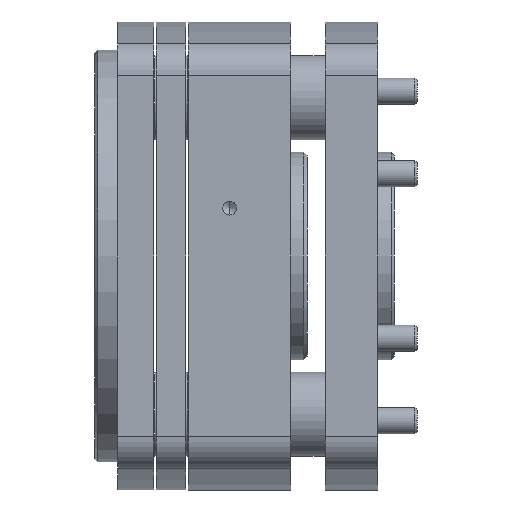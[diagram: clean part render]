
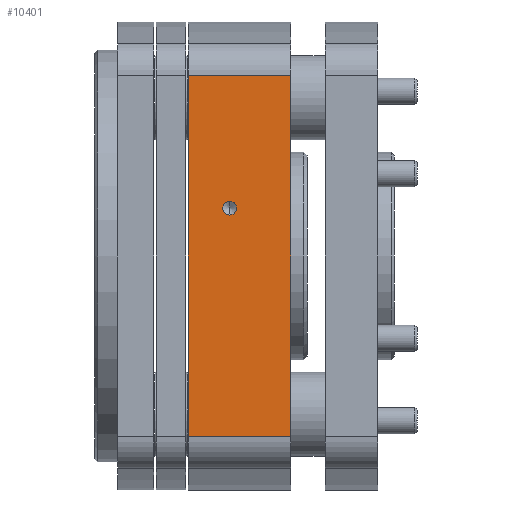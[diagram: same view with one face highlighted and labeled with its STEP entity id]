
A CAD part, left-side view. The second image highlights one B-rep face of the part: STEP entity #10401.
In plain terms, the highlighted planar face has unit normal (-1, 0, 0).
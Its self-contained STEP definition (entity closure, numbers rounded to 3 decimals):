
#1173 = DIRECTION ( 'NONE',  ( 0., 0., 1. ) ) ;
#2265 = CIRCLE ( 'NONE', #2999, 2.067 ) ;
#2429 = AXIS2_PLACEMENT_3D ( 'NONE', #11113, #3839, #13473 ) ;
#2808 = EDGE_CURVE ( 'NONE', #13962, #8221, #11132, .T. ) ;
#2934 = VECTOR ( 'NONE', #3507, 1000. ) ;
#2999 = AXIS2_PLACEMENT_3D ( 'NONE', #13264, #14474, #13314 ) ;
#3128 = ORIENTED_EDGE ( 'NONE', *, *, #13767, .F. ) ;
#3389 = LINE ( 'NONE', #14414, #3954 ) ;
#3403 = CARTESIAN_POINT ( 'NONE',  ( -62.5, -28., 54.762 ) ) ;
#3454 = CARTESIAN_POINT ( 'NONE',  ( -62.5, -59., -54.762 ) ) ;
#3507 = DIRECTION ( 'NONE',  ( 0., -1., 0. ) ) ;
#3578 = EDGE_CURVE ( 'NONE', #15499, #13962, #3389, .T. ) ;
#3839 = DIRECTION ( 'NONE',  ( -1., 0., 0. ) ) ;
#3884 = ORIENTED_EDGE ( 'NONE', *, *, #5105, .T. ) ;
#3954 = VECTOR ( 'NONE', #1173, 1000. ) ;
#4232 = CARTESIAN_POINT ( 'NONE',  ( -62.5, -28., 163.029 ) ) ;
#4485 = DIRECTION ( 'NONE',  ( 0., 0., -1. ) ) ;
#4801 = CARTESIAN_POINT ( 'NONE',  ( -62.5, -59., 54.762 ) ) ;
#4992 = PLANE ( 'NONE',  #2429 ) ;
#5105 = EDGE_CURVE ( 'NONE', #9518, #10868, #10880, .T. ) ;
#5796 = ORIENTED_EDGE ( 'NONE', *, *, #7923, .T. ) ;
#6500 = VECTOR ( 'NONE', #6709, 1000. ) ;
#6709 = DIRECTION ( 'NONE',  ( 0., 0., 1. ) ) ;
#6773 = ORIENTED_EDGE ( 'NONE', *, *, #10712, .T. ) ;
#7675 = EDGE_LOOP ( 'NONE', ( #3128, #6773, #8150, #8603 ) ) ;
#7923 = EDGE_CURVE ( 'NONE', #10868, #9518, #2265, .T. ) ;
#8150 = ORIENTED_EDGE ( 'NONE', *, *, #3578, .T. ) ;
#8221 = VERTEX_POINT ( 'NONE', #3403 ) ;
#8391 = VERTEX_POINT ( 'NONE', #13403 ) ;
#8603 = ORIENTED_EDGE ( 'NONE', *, *, #2808, .T. ) ;
#8851 = CARTESIAN_POINT ( 'NONE',  ( -62.5, -40.5, 16.567 ) ) ;
#8934 = EDGE_LOOP ( 'NONE', ( #5796, #3884 ) ) ;
#9518 = VERTEX_POINT ( 'NONE', #8851 ) ;
#10401 = ADVANCED_FACE ( 'NONE', ( #11980, #11604 ), #4992, .T. ) ;
#10712 = EDGE_CURVE ( 'NONE', #8391, #15499, #13286, .T. ) ;
#10752 = VECTOR ( 'NONE', #13409, 1000. ) ;
#10868 = VERTEX_POINT ( 'NONE', #12263 ) ;
#10880 = CIRCLE ( 'NONE', #13831, 2.067 ) ;
#10984 = CARTESIAN_POINT ( 'NONE',  ( -62.5, -59., 54.762 ) ) ;
#11113 = CARTESIAN_POINT ( 'NONE',  ( -62.5, -59., -62.5 ) ) ;
#11132 = LINE ( 'NONE', #10984, #10752 ) ;
#11604 = FACE_BOUND ( 'NONE', #8934, .T. ) ;
#11748 = CARTESIAN_POINT ( 'NONE',  ( -62.5, -40.5, 14.5 ) ) ;
#11980 = FACE_OUTER_BOUND ( 'NONE', #7675, .T. ) ;
#11990 = LINE ( 'NONE', #4232, #6500 ) ;
#12263 = CARTESIAN_POINT ( 'NONE',  ( -62.5, -40.5, 12.433 ) ) ;
#13264 = CARTESIAN_POINT ( 'NONE',  ( -62.5, -40.5, 14.5 ) ) ;
#13286 = LINE ( 'NONE', #3454, #2934 ) ;
#13314 = DIRECTION ( 'NONE',  ( 0., 0., -1. ) ) ;
#13403 = CARTESIAN_POINT ( 'NONE',  ( -62.5, -28., -54.762 ) ) ;
#13409 = DIRECTION ( 'NONE',  ( 0., 1., 0. ) ) ;
#13473 = DIRECTION ( 'NONE',  ( 0., 0., 1. ) ) ;
#13767 = EDGE_CURVE ( 'NONE', #8391, #8221, #11990, .T. ) ;
#13831 = AXIS2_PLACEMENT_3D ( 'NONE', #11748, #15393, #4485 ) ;
#13962 = VERTEX_POINT ( 'NONE', #4801 ) ;
#14414 = CARTESIAN_POINT ( 'NONE',  ( -62.5, -59., -62.5 ) ) ;
#14474 = DIRECTION ( 'NONE',  ( 1., 0., 0. ) ) ;
#15393 = DIRECTION ( 'NONE',  ( 1., 0., 0. ) ) ;
#15499 = VERTEX_POINT ( 'NONE', #15537 ) ;
#15537 = CARTESIAN_POINT ( 'NONE',  ( -62.5, -59., -54.762 ) ) ;
